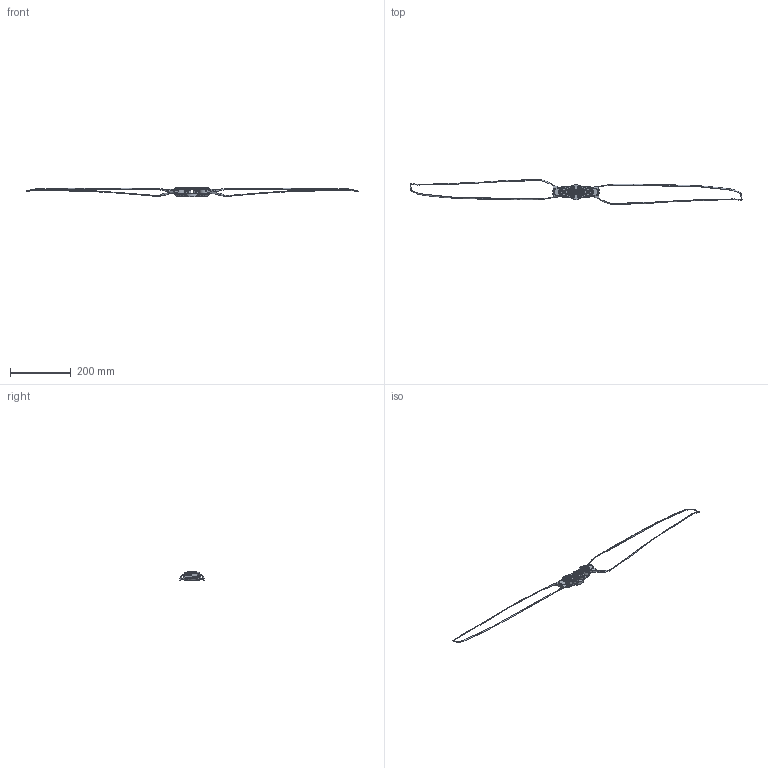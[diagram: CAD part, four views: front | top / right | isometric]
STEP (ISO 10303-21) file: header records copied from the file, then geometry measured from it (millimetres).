
FILE_DESCRIPTION (( 'STEP AP203' ), '1' );
FILE_NAME ('43渡蔑蚾饜.STEP', '2025-02-11T05:03:31', ( '' ), ( '' ), 'SwSTEP 2.0', 'SolidWorks 2022', '' );
FILE_SCHEMA (( 'CONFIG_CONTROL_DESIGN' ));
Length unit declared in the file: millimetre
Products named in the file (8): 钢轴; MF4315CCW; 43寸桨装配; 波形垫片; 垫片; 不锈钢平垫片; 上板-555; 下板-555
Assembly tree (14 placements, depth 2):
  43寸桨装配
    下板-555
    上板-555
    垫片  x4
    钢轴  x2
    波形垫片  x2
    不锈钢平垫片  x2
    MF4315CCW  x2
Bounding box: 1090.38 x 80.9 x 31.5 mm (x, y, z)
Volume: 119538.7 mm3; surface area: 64965.6 mm2
Topology: 14 solids, 14 shells, 827 faces, 2214 edges, 1426 vertices
Faces by surface type: cylinder 371, plane 289, bspline 86, cone 46, torus 35
Entity records: 35430 total; most frequent: CARTESIAN_POINT 19246, DIRECTION 3250, ORIENTED_EDGE 3196, EDGE_CURVE 1598, AXIS2_PLACEMENT_3D 1266, VERTEX_POINT 1026, VECTOR 718, LINE 718
